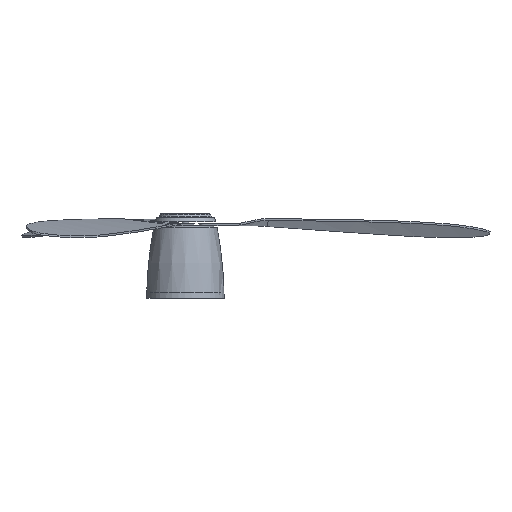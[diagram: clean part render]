
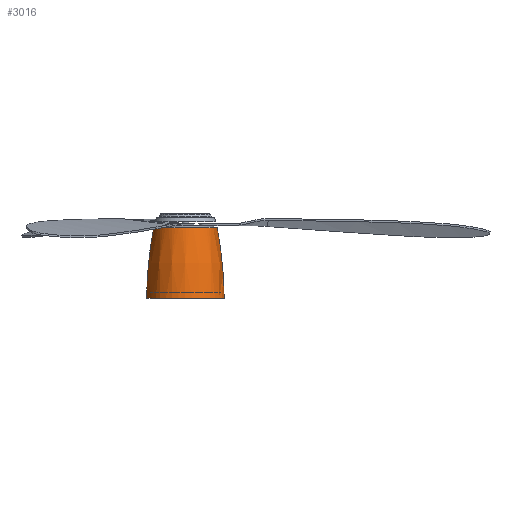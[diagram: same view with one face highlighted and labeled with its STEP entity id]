
A CAD part, left-side view. The second image highlights one B-rep face of the part: STEP entity #3016.
In plain terms, the highlighted free-form (B-spline) face has degree [2, 2] with [3, 5] control points.
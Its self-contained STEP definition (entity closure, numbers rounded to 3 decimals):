
#19=(
BOUNDED_SURFACE()
B_SPLINE_SURFACE(2,2,((#6591,#6592,#6593,#6594,#6595),(#6596,#6597,#6598,
#6599,#6600),(#6601,#6602,#6603,#6604,#6605)),.UNSPECIFIED.,.F.,.F.,.F.)
B_SPLINE_SURFACE_WITH_KNOTS((3,3),(3,2,3),(0.008,0.192),
(-1.571,0.,1.571),.UNSPECIFIED.)
GEOMETRIC_REPRESENTATION_ITEM()
RATIONAL_B_SPLINE_SURFACE(((1.,0.707,1.,0.707,1.),
(0.996,0.704,0.996,0.704,
0.996),(1.,0.707,1.,0.707,1.)))
REPRESENTATION_ITEM('')
SURFACE()
);
#149=CIRCLE('',#3224,840.706);
#151=CIRCLE('',#3226,840.706);
#152=CIRCLE('',#3227,83.999);
#403=FACE_OUTER_BOUND('',#578,.T.);
#578=EDGE_LOOP('',(#2766,#2767,#2768,#2769));
#818=B_SPLINE_CURVE_WITH_KNOTS('',3,(#6606,#6607,#6608,#6609,#6610,#6611,
#6612,#6613,#6614,#6615,#6616),.UNSPECIFIED.,.F.,.F.,(4,1,1,1,1,1,1,1,4),
(0.,0.125,0.25,0.375,0.5,0.625,0.75,0.875,1.),.UNSPECIFIED.);
#1429=VERTEX_POINT('',#6573);
#1430=VERTEX_POINT('',#6574);
#1431=VERTEX_POINT('',#6586);
#1432=VERTEX_POINT('',#6588);
#1877=EDGE_CURVE('',#1431,#1429,#149,.T.);
#1879=EDGE_CURVE('',#1430,#1432,#151,.T.);
#1880=EDGE_CURVE('',#1430,#1429,#818,.T.);
#1881=EDGE_CURVE('',#1431,#1432,#152,.T.);
#2766=ORIENTED_EDGE('',*,*,#1880,.F.);
#2767=ORIENTED_EDGE('',*,*,#1879,.T.);
#2768=ORIENTED_EDGE('',*,*,#1881,.F.);
#2769=ORIENTED_EDGE('',*,*,#1877,.T.);
#3016=ADVANCED_FACE('',(#403),#19,.F.);
#3224=AXIS2_PLACEMENT_3D('',#6587,#3774,#3775);
#3226=AXIS2_PLACEMENT_3D('',#6590,#3778,#3779);
#3227=AXIS2_PLACEMENT_3D('',#6617,#3780,#3781);
#3774=DIRECTION('center_axis',(-1.,0.,0.));
#3775=DIRECTION('ref_axis',(0.,-1.,0.));
#3778=DIRECTION('center_axis',(-1.,0.,0.));
#3779=DIRECTION('ref_axis',(0.,1.,0.));
#3780=DIRECTION('center_axis',(0.,0.,
-1.));
#3781=DIRECTION('ref_axis',(1.,0.,0.));
#6573=CARTESIAN_POINT('',(0.,-68.654,152.975));
#6574=CARTESIAN_POINT('',(0.,68.654,152.975));
#6586=CARTESIAN_POINT('',(0.,-83.999,0.));
#6587=CARTESIAN_POINT('Origin',(0.,756.677,-7.073));
#6588=CARTESIAN_POINT('',(0.,83.999,0.));
#6590=CARTESIAN_POINT('Origin',(0.,-756.677,
-7.073));
#6591=CARTESIAN_POINT('Ctrl Pts',(0.,83.999,
0.));
#6592=CARTESIAN_POINT('Ctrl Pts',(-83.999,83.999,0.));
#6593=CARTESIAN_POINT('Ctrl Pts',(-83.999,0.,
0.));
#6594=CARTESIAN_POINT('Ctrl Pts',(-83.999,-83.999,0.));
#6595=CARTESIAN_POINT('Ctrl Pts',(0.,-83.999,
0.));
#6596=CARTESIAN_POINT('Ctrl Pts',(0.,83.35,
77.194));
#6597=CARTESIAN_POINT('Ctrl Pts',(-83.35,83.35,77.194));
#6598=CARTESIAN_POINT('Ctrl Pts',(-83.35,0.,
77.194));
#6599=CARTESIAN_POINT('Ctrl Pts',(-83.35,-83.35,77.194));
#6600=CARTESIAN_POINT('Ctrl Pts',(0.,-83.35,
77.194));
#6601=CARTESIAN_POINT('Ctrl Pts',(0.,68.653,
152.98));
#6602=CARTESIAN_POINT('Ctrl Pts',(-68.653,68.653,152.98));
#6603=CARTESIAN_POINT('Ctrl Pts',(-68.653,0.,
152.98));
#6604=CARTESIAN_POINT('Ctrl Pts',(-68.653,-68.653,152.98));
#6605=CARTESIAN_POINT('Ctrl Pts',(0.,-68.653,
152.98));
#6606=CARTESIAN_POINT('Ctrl Pts',(0.,68.654,
152.975));
#6607=CARTESIAN_POINT('Ctrl Pts',(-9.023,68.744,152.975));
#6608=CARTESIAN_POINT('Ctrl Pts',(-26.939,65.037,152.975));
#6609=CARTESIAN_POINT('Ctrl Pts',(-49.814,49.821,152.975));
#6610=CARTESIAN_POINT('Ctrl Pts',(-65.078,26.954,152.975));
#6611=CARTESIAN_POINT('Ctrl Pts',(-70.442,0.,
152.975));
#6612=CARTESIAN_POINT('Ctrl Pts',(-65.078,-26.954,152.975));
#6613=CARTESIAN_POINT('Ctrl Pts',(-49.814,-49.821,152.975));
#6614=CARTESIAN_POINT('Ctrl Pts',(-26.939,-65.037,152.975));
#6615=CARTESIAN_POINT('Ctrl Pts',(-9.023,-68.744,152.975));
#6616=CARTESIAN_POINT('Ctrl Pts',(0.,-68.654,
152.975));
#6617=CARTESIAN_POINT('Origin',(0.,0.,
0.));
